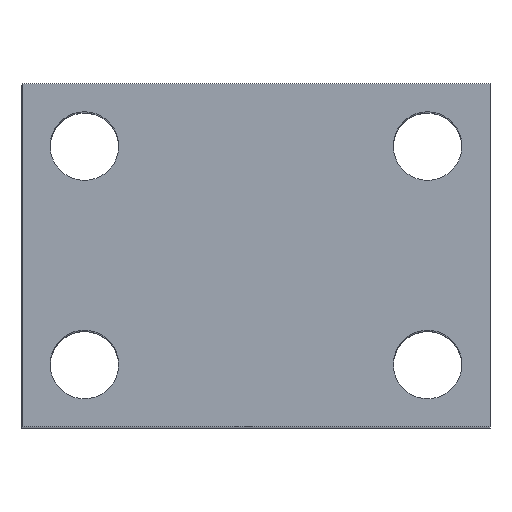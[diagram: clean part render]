
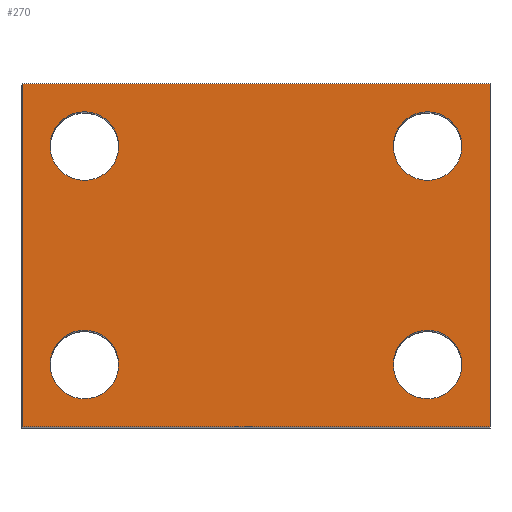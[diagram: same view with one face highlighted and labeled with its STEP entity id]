
A CAD part, top view. The second image highlights one B-rep face of the part: STEP entity #270.
In plain terms, the highlighted planar face has unit normal (0, 0, 1).
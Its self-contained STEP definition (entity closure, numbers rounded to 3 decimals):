
#102 = AXIS2_PLACEMENT_3D ( 'NONE', #13750, #5918, #15072 ) ;
#106 = DIRECTION ( 'NONE',  ( 0., -1., 0. ) ) ;
#206 = FACE_BOUND ( 'NONE', #10020, .T. ) ;
#270 = ADVANCED_FACE ( 'NONE', ( #13685, #10214, #206, #7128, #6730 ), #10821, .F. ) ;
#287 = EDGE_CURVE ( 'NONE', #4233, #8524, #3273, .T. ) ;
#445 = DIRECTION ( 'NONE',  ( -1., 0., 0. ) ) ;
#498 = CARTESIAN_POINT ( 'NONE',  ( -37.5, 0., 47.5 ) ) ;
#517 = CARTESIAN_POINT ( 'NONE',  ( -27.5, 10., 47.5 ) ) ;
#556 = ORIENTED_EDGE ( 'NONE', *, *, #16010, .T. ) ;
#595 = CARTESIAN_POINT ( 'NONE',  ( 22., 45., 47.5 ) ) ;
#770 = DIRECTION ( 'NONE',  ( -1., 0., 0. ) ) ;
#1001 = DIRECTION ( 'NONE',  ( -1., 0., 0. ) ) ;
#1124 = DIRECTION ( 'NONE',  ( 0., 0., -1. ) ) ;
#1301 = AXIS2_PLACEMENT_3D ( 'NONE', #16092, #8253, #445 ) ;
#1479 = CARTESIAN_POINT ( 'NONE',  ( 37.5, 0., 47.5 ) ) ;
#1713 = CARTESIAN_POINT ( 'NONE',  ( -37.5, 55., 47.5 ) ) ;
#1825 = DIRECTION ( 'NONE',  ( -1., 0., 0. ) ) ;
#2400 = CARTESIAN_POINT ( 'NONE',  ( 33., 10., 47.5 ) ) ;
#2598 = EDGE_CURVE ( 'NONE', #8524, #4233, #7032, .T. ) ;
#2768 = VECTOR ( 'NONE', #10162, 1000. ) ;
#2887 = AXIS2_PLACEMENT_3D ( 'NONE', #3037, #12155, #4331 ) ;
#3035 = DIRECTION ( 'NONE',  ( 0., 0., -1. ) ) ;
#3037 = CARTESIAN_POINT ( 'NONE',  ( -27.5, 10., 47.5 ) ) ;
#3273 = CIRCLE ( 'NONE', #3315, 5.5 ) ;
#3315 = AXIS2_PLACEMENT_3D ( 'NONE', #517, #9646, #1825 ) ;
#3594 = VERTEX_POINT ( 'NONE', #7154 ) ;
#4048 = ORIENTED_EDGE ( 'NONE', *, *, #11612, .F. ) ;
#4187 = AXIS2_PLACEMENT_3D ( 'NONE', #1713, #3035, #12154 ) ;
#4233 = VERTEX_POINT ( 'NONE', #13329 ) ;
#4241 = EDGE_LOOP ( 'NONE', ( #12795, #8993 ) ) ;
#4331 = DIRECTION ( 'NONE',  ( -1., 0., 0. ) ) ;
#4364 = EDGE_CURVE ( 'NONE', #12283, #9369, #10080, .T. ) ;
#4703 = ORIENTED_EDGE ( 'NONE', *, *, #10542, .T. ) ;
#4903 = AXIS2_PLACEMENT_3D ( 'NONE', #16412, #8574, #770 ) ;
#5029 = VERTEX_POINT ( 'NONE', #15874 ) ;
#5885 = AXIS2_PLACEMENT_3D ( 'NONE', #8954, #1124, #10244 ) ;
#5918 = DIRECTION ( 'NONE',  ( 0., 0., -1. ) ) ;
#6428 = VECTOR ( 'NONE', #14585, 1000. ) ;
#6458 = EDGE_LOOP ( 'NONE', ( #16548, #6769 ) ) ;
#6602 = VECTOR ( 'NONE', #12298, 1000. ) ;
#6631 = LINE ( 'NONE', #8846, #2768 ) ;
#6730 = FACE_OUTER_BOUND ( 'NONE', #7241, .T. ) ;
#6769 = ORIENTED_EDGE ( 'NONE', *, *, #12018, .T. ) ;
#6951 = CARTESIAN_POINT ( 'NONE',  ( -37.5, 0., 47.5 ) ) ;
#7032 = CIRCLE ( 'NONE', #2887, 5.5 ) ;
#7048 = VERTEX_POINT ( 'NONE', #7184 ) ;
#7099 = VERTEX_POINT ( 'NONE', #8572 ) ;
#7128 = FACE_BOUND ( 'NONE', #6458, .T. ) ;
#7154 = CARTESIAN_POINT ( 'NONE',  ( -33., 45., 47.5 ) ) ;
#7184 = CARTESIAN_POINT ( 'NONE',  ( -22., 45., 47.5 ) ) ;
#7201 = CIRCLE ( 'NONE', #7518, 5.5 ) ;
#7241 = EDGE_LOOP ( 'NONE', ( #11914, #4048, #10887, #556 ) ) ;
#7353 = ORIENTED_EDGE ( 'NONE', *, *, #9496, .T. ) ;
#7354 = DIRECTION ( 'NONE',  ( 0., 0., -1. ) ) ;
#7518 = AXIS2_PLACEMENT_3D ( 'NONE', #15209, #7354, #16524 ) ;
#7541 = VERTEX_POINT ( 'NONE', #15077 ) ;
#7912 = CIRCLE ( 'NONE', #9438, 5.5 ) ;
#8061 = CARTESIAN_POINT ( 'NONE',  ( -37.5, 55., 47.5 ) ) ;
#8253 = DIRECTION ( 'NONE',  ( 0., 0., -1. ) ) ;
#8524 = VERTEX_POINT ( 'NONE', #10680 ) ;
#8572 = CARTESIAN_POINT ( 'NONE',  ( 33., 45., 47.5 ) ) ;
#8574 = DIRECTION ( 'NONE',  ( 0., 0., -1. ) ) ;
#8810 = DIRECTION ( 'NONE',  ( 0., 0., -1. ) ) ;
#8846 = CARTESIAN_POINT ( 'NONE',  ( -37.5, 55., 47.5 ) ) ;
#8954 = CARTESIAN_POINT ( 'NONE',  ( 27.5, 10., 47.5 ) ) ;
#8993 = ORIENTED_EDGE ( 'NONE', *, *, #11959, .T. ) ;
#9369 = VERTEX_POINT ( 'NONE', #1479 ) ;
#9438 = AXIS2_PLACEMENT_3D ( 'NONE', #16642, #8810, #1001 ) ;
#9496 = EDGE_CURVE ( 'NONE', #7541, #14908, #12341, .T. ) ;
#9646 = DIRECTION ( 'NONE',  ( 0., 0., -1. ) ) ;
#9688 = VECTOR ( 'NONE', #106, 1000. ) ;
#10005 = EDGE_CURVE ( 'NONE', #3594, #7048, #15205, .T. ) ;
#10020 = EDGE_LOOP ( 'NONE', ( #7353, #4703 ) ) ;
#10080 = LINE ( 'NONE', #498, #6602 ) ;
#10162 = DIRECTION ( 'NONE',  ( 0., -1., 0. ) ) ;
#10214 = FACE_BOUND ( 'NONE', #16403, .T. ) ;
#10222 = CARTESIAN_POINT ( 'NONE',  ( 37.5, 55., 47.5 ) ) ;
#10244 = DIRECTION ( 'NONE',  ( -1., 0., 0. ) ) ;
#10290 = CIRCLE ( 'NONE', #5885, 5.5 ) ;
#10293 = CIRCLE ( 'NONE', #4903, 5.5 ) ;
#10542 = EDGE_CURVE ( 'NONE', #14908, #7541, #10290, .T. ) ;
#10578 = CARTESIAN_POINT ( 'NONE',  ( 37.5, 55., 47.5 ) ) ;
#10680 = CARTESIAN_POINT ( 'NONE',  ( -22., 10., 47.5 ) ) ;
#10821 = PLANE ( 'NONE',  #4187 ) ;
#10887 = ORIENTED_EDGE ( 'NONE', *, *, #16465, .F. ) ;
#11612 = EDGE_CURVE ( 'NONE', #15709, #9369, #13153, .T. ) ;
#11878 = VERTEX_POINT ( 'NONE', #595 ) ;
#11914 = ORIENTED_EDGE ( 'NONE', *, *, #4364, .T. ) ;
#11959 = EDGE_CURVE ( 'NONE', #7048, #3594, #10293, .T. ) ;
#12018 = EDGE_CURVE ( 'NONE', #7099, #11878, #7201, .T. ) ;
#12154 = DIRECTION ( 'NONE',  ( -1., 0., 0. ) ) ;
#12155 = DIRECTION ( 'NONE',  ( 0., 0., -1. ) ) ;
#12283 = VERTEX_POINT ( 'NONE', #6951 ) ;
#12298 = DIRECTION ( 'NONE',  ( 1., 0., 0. ) ) ;
#12341 = CIRCLE ( 'NONE', #1301, 5.5 ) ;
#12795 = ORIENTED_EDGE ( 'NONE', *, *, #10005, .T. ) ;
#13006 = ORIENTED_EDGE ( 'NONE', *, *, #287, .T. ) ;
#13153 = LINE ( 'NONE', #10578, #9688 ) ;
#13217 = EDGE_CURVE ( 'NONE', #11878, #7099, #7912, .T. ) ;
#13329 = CARTESIAN_POINT ( 'NONE',  ( -33., 10., 47.5 ) ) ;
#13685 = FACE_BOUND ( 'NONE', #4241, .T. ) ;
#13750 = CARTESIAN_POINT ( 'NONE',  ( -27.5, 45., 47.5 ) ) ;
#14585 = DIRECTION ( 'NONE',  ( 1., 0., 0. ) ) ;
#14908 = VERTEX_POINT ( 'NONE', #2400 ) ;
#15072 = DIRECTION ( 'NONE',  ( -1., 0., 0. ) ) ;
#15077 = CARTESIAN_POINT ( 'NONE',  ( 22., 10., 47.5 ) ) ;
#15205 = CIRCLE ( 'NONE', #102, 5.5 ) ;
#15209 = CARTESIAN_POINT ( 'NONE',  ( 27.5, 45., 47.5 ) ) ;
#15492 = ORIENTED_EDGE ( 'NONE', *, *, #2598, .T. ) ;
#15709 = VERTEX_POINT ( 'NONE', #10222 ) ;
#15874 = CARTESIAN_POINT ( 'NONE',  ( -37.5, 55., 47.5 ) ) ;
#16010 = EDGE_CURVE ( 'NONE', #5029, #12283, #6631, .T. ) ;
#16092 = CARTESIAN_POINT ( 'NONE',  ( 27.5, 10., 47.5 ) ) ;
#16403 = EDGE_LOOP ( 'NONE', ( #13006, #15492 ) ) ;
#16412 = CARTESIAN_POINT ( 'NONE',  ( -27.5, 45., 47.5 ) ) ;
#16441 = LINE ( 'NONE', #8061, #6428 ) ;
#16465 = EDGE_CURVE ( 'NONE', #5029, #15709, #16441, .T. ) ;
#16524 = DIRECTION ( 'NONE',  ( -1., 0., 0. ) ) ;
#16548 = ORIENTED_EDGE ( 'NONE', *, *, #13217, .T. ) ;
#16642 = CARTESIAN_POINT ( 'NONE',  ( 27.5, 45., 47.5 ) ) ;
